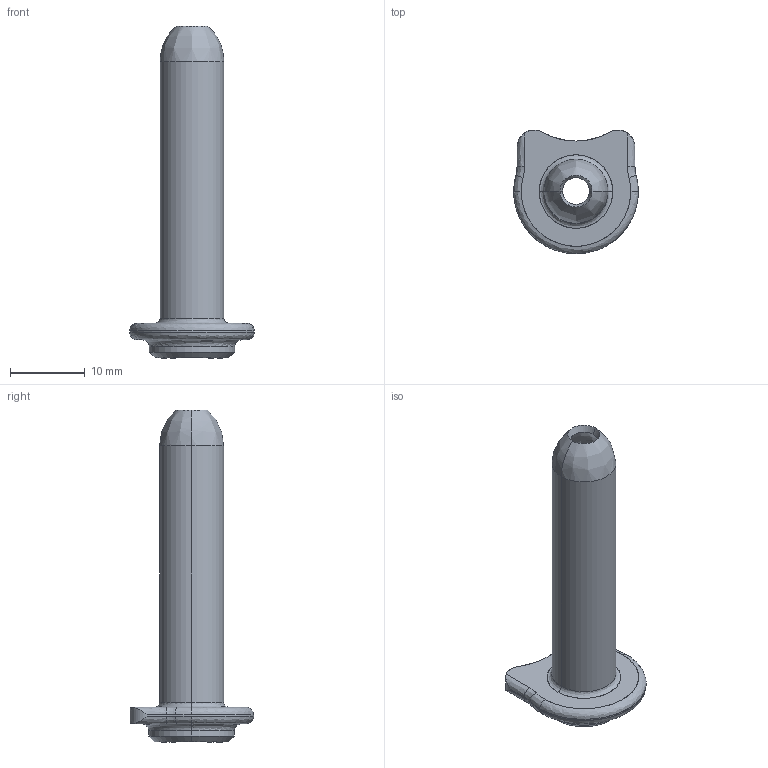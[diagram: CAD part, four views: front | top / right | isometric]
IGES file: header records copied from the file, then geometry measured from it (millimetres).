
Start section: SolidWorks IGES file using analytic representation for surfaces
Global section: file name: \\PSSILO\catalogs\CONTENTCENTRAL\Recoil Spring Guide\Cache\F95A6AF5-16CA-42D0-9E74-A477AE599861.IGS; native system: SolidWorks 2009; preprocessor: SolidWorks 2009; author: partstream; date: 090731.224710; units: inch
Bounding box: 16.64 x 16.53 x 44.32 mm (x, y, z)
Surface area: 2485.5 mm2 (no closed solid volume)
Topology: 0 solids, 0 shells, 45 faces, 416 edges, 416 vertices
Faces by surface type: bspline 23, revolution 22
